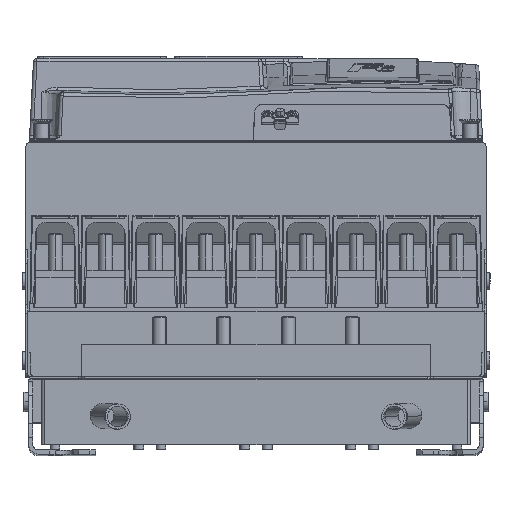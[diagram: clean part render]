
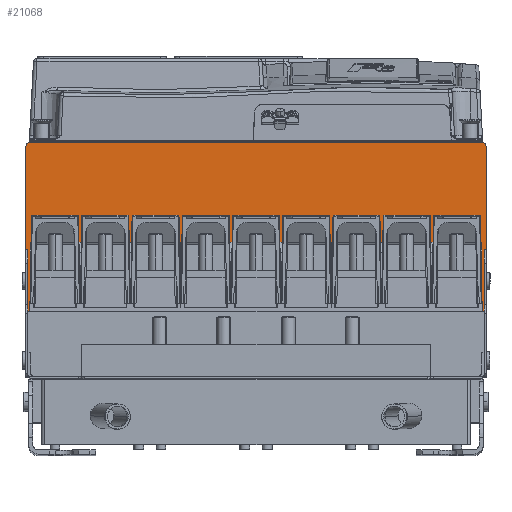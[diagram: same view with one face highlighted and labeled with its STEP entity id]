
A CAD part, top view. The second image highlights one B-rep face of the part: STEP entity #21068.
In plain terms, the highlighted planar face has unit normal (0, 0, 1).
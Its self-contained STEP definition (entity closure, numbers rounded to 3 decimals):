
#443 = PLANE ( 'NONE',  #26971 ) ;
#972 = DIRECTION ( 'NONE',  ( -1., 0., 0. ) ) ;
#2523 = VECTOR ( 'NONE', #62731, 1000. ) ;
#2815 = CARTESIAN_POINT ( 'NONE',  ( -161.5, -3.5, 453. ) ) ;
#3072 = CARTESIAN_POINT ( 'NONE',  ( 165.001, -77., 453. ) ) ;
#3585 = CARTESIAN_POINT ( 'NONE',  ( 161.5, 0., 453. ) ) ;
#9961 = EDGE_CURVE ( 'NONE', #68981, #73145, #79301, .T. ) ;
#12060 = EDGE_CURVE ( 'NONE', #84289, #16578, #39005, .T. ) ;
#13083 = ORIENTED_EDGE ( 'NONE', *, *, #80602, .F. ) ;
#13413 = EDGE_CURVE ( 'NONE', #73145, #84289, #25606, .T. ) ;
#13429 = CARTESIAN_POINT ( 'NONE',  ( 163.5, -167.9, 453. ) ) ;
#14300 = CARTESIAN_POINT ( 'NONE',  ( 165., -77., 453. ) ) ;
#14578 = VECTOR ( 'NONE', #972, 1000. ) ;
#14820 = DIRECTION ( 'NONE',  ( 0., 1., 0. ) ) ;
#15425 = LINE ( 'NONE', #89104, #90610 ) ;
#16577 = LINE ( 'NONE', #55865, #69794 ) ;
#16578 = VERTEX_POINT ( 'NONE', #44139 ) ;
#17666 = VERTEX_POINT ( 'NONE', #60614 ) ;
#18344 = LINE ( 'NONE', #57621, #71517 ) ;
#21068 = ADVANCED_FACE ( 'NONE', ( #23825 ), #443, .F. ) ;
#23063 = ORIENTED_EDGE ( 'NONE', *, *, #9961, .F. ) ;
#23825 = FACE_OUTER_BOUND ( 'NONE', #99939, .T. ) ;
#25606 = LINE ( 'NONE', #55498, #76386 ) ;
#26727 = EDGE_CURVE ( 'NONE', #39509, #70987, #46287, .T. ) ;
#26971 = AXIS2_PLACEMENT_3D ( 'NONE', #88512, #65169, #90592 ) ;
#28351 = DIRECTION ( 'NONE',  ( 0., 1., 0. ) ) ;
#29494 = VERTEX_POINT ( 'NONE', #49166 ) ;
#32789 = EDGE_CURVE ( 'NONE', #29494, #39509, #18344, .T. ) ;
#35167 = DIRECTION ( 'NONE',  ( 0., 0., -1. ) ) ;
#38655 = CARTESIAN_POINT ( 'NONE',  ( -163.5, 0., 453. ) ) ;
#39005 = CIRCLE ( 'NONE', #42378, 3.5 ) ;
#39509 = VERTEX_POINT ( 'NONE', #13429 ) ;
#40284 = AXIS2_PLACEMENT_3D ( 'NONE', #2815, #35167, #67521 ) ;
#40840 = DIRECTION ( 'NONE',  ( 1., 0., 0. ) ) ;
#42378 = AXIS2_PLACEMENT_3D ( 'NONE', #85079, #100465, #28351 ) ;
#43988 = LINE ( 'NONE', #38655, #66654 ) ;
#44139 = CARTESIAN_POINT ( 'NONE',  ( 165., -3.5, 453. ) ) ;
#44836 = ORIENTED_EDGE ( 'NONE', *, *, #75382, .T. ) ;
#46287 = LINE ( 'NONE', #77067, #2523 ) ;
#49166 = CARTESIAN_POINT ( 'NONE',  ( 163.5, -77., 453. ) ) ;
#50506 = DIRECTION ( 'NONE',  ( 1., 0., 0. ) ) ;
#51399 = ORIENTED_EDGE ( 'NONE', *, *, #32789, .F. ) ;
#52257 = ORIENTED_EDGE ( 'NONE', *, *, #98140, .T. ) ;
#55498 = CARTESIAN_POINT ( 'NONE',  ( 0., 0., 453. ) ) ;
#55865 = CARTESIAN_POINT ( 'NONE',  ( 165., -3.5, 453. ) ) ;
#57621 = CARTESIAN_POINT ( 'NONE',  ( 163.5, 0., 453. ) ) ;
#59073 = CARTESIAN_POINT ( 'NONE',  ( -163.5, -167.9, 453. ) ) ;
#59830 = ORIENTED_EDGE ( 'NONE', *, *, #82883, .F. ) ;
#60614 = CARTESIAN_POINT ( 'NONE',  ( -165., -77., 453. ) ) ;
#62731 = DIRECTION ( 'NONE',  ( -1., 0., 0. ) ) ;
#65169 = DIRECTION ( 'NONE',  ( 0., 0., -1. ) ) ;
#66654 = VECTOR ( 'NONE', #14820, 1000. ) ;
#67521 = DIRECTION ( 'NONE',  ( 0., 1., 0. ) ) ;
#68750 = ORIENTED_EDGE ( 'NONE', *, *, #12060, .F. ) ;
#68981 = VERTEX_POINT ( 'NONE', #104430 ) ;
#69794 = VECTOR ( 'NONE', #71799, 1000. ) ;
#70987 = VERTEX_POINT ( 'NONE', #59073 ) ;
#71129 = DIRECTION ( 'NONE',  ( 0., -1., 0. ) ) ;
#71517 = VECTOR ( 'NONE', #82042, 1000. ) ;
#71799 = DIRECTION ( 'NONE',  ( 0., 1., 0. ) ) ;
#73145 = VERTEX_POINT ( 'NONE', #99018 ) ;
#74007 = CARTESIAN_POINT ( 'NONE',  ( -163.5, -77., 453. ) ) ;
#74064 = ORIENTED_EDGE ( 'NONE', *, *, #26727, .F. ) ;
#75382 = EDGE_CURVE ( 'NONE', #68981, #17666, #101868, .T. ) ;
#75560 = EDGE_CURVE ( 'NONE', #17666, #93158, #15425, .T. ) ;
#76386 = VECTOR ( 'NONE', #50506, 1000. ) ;
#77067 = CARTESIAN_POINT ( 'NONE',  ( 0., -167.9, 453. ) ) ;
#77086 = VERTEX_POINT ( 'NONE', #14300 ) ;
#79301 = CIRCLE ( 'NONE', #40284, 3.5 ) ;
#80602 = EDGE_CURVE ( 'NONE', #70987, #93158, #43988, .T. ) ;
#81627 = LINE ( 'NONE', #3072, #14578 ) ;
#82042 = DIRECTION ( 'NONE',  ( 0., -1., 0. ) ) ;
#82883 = EDGE_CURVE ( 'NONE', #77086, #29494, #81627, .T. ) ;
#84289 = VERTEX_POINT ( 'NONE', #3585 ) ;
#85079 = CARTESIAN_POINT ( 'NONE',  ( 161.5, -3.5, 453. ) ) ;
#85982 = CARTESIAN_POINT ( 'NONE',  ( -165., -3.5, 453. ) ) ;
#88512 = CARTESIAN_POINT ( 'NONE',  ( 0., 0., 453. ) ) ;
#89104 = CARTESIAN_POINT ( 'NONE',  ( -165.001, -77., 453. ) ) ;
#90592 = DIRECTION ( 'NONE',  ( 0., 1., 0. ) ) ;
#90610 = VECTOR ( 'NONE', #40840, 1000. ) ;
#93158 = VERTEX_POINT ( 'NONE', #74007 ) ;
#93355 = ORIENTED_EDGE ( 'NONE', *, *, #13413, .F. ) ;
#93944 = VECTOR ( 'NONE', #71129, 1000. ) ;
#98140 = EDGE_CURVE ( 'NONE', #77086, #16578, #16577, .T. ) ;
#99018 = CARTESIAN_POINT ( 'NONE',  ( -161.5, 0., 453. ) ) ;
#99939 = EDGE_LOOP ( 'NONE', ( #23063, #44836, #101836, #13083, #74064, #51399, #59830, #52257, #68750, #93355 ) ) ;
#100465 = DIRECTION ( 'NONE',  ( 0., 0., -1. ) ) ;
#101836 = ORIENTED_EDGE ( 'NONE', *, *, #75560, .T. ) ;
#101868 = LINE ( 'NONE', #85982, #93944 ) ;
#104430 = CARTESIAN_POINT ( 'NONE',  ( -165., -3.5, 453. ) ) ;
